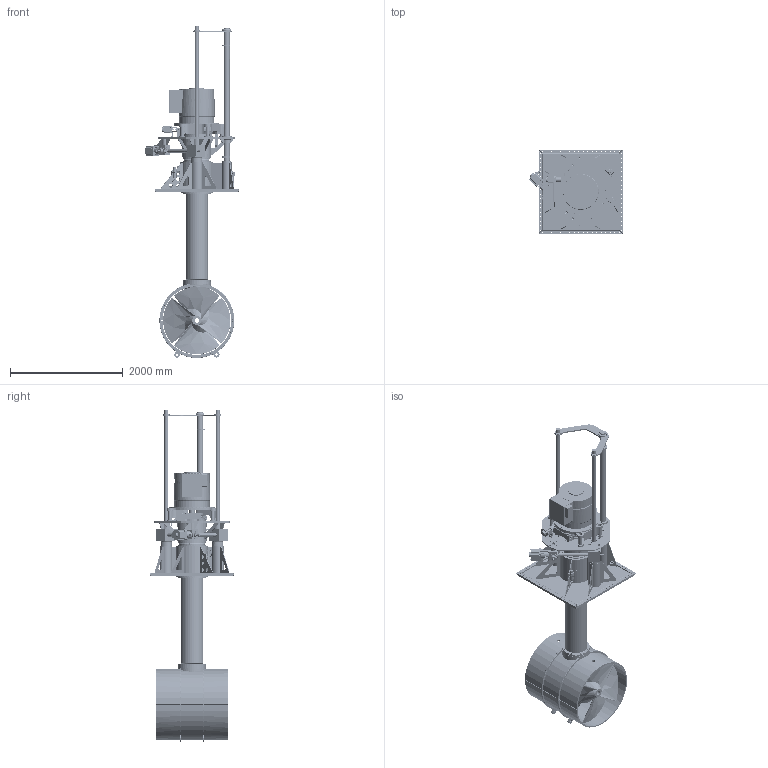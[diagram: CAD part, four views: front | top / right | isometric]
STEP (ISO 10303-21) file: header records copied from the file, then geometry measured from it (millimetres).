
FILE_DESCRIPTION(/* description */ (''),/* implementation_level */ '2;1');
FILE_NAME(/* name */ 'Q:\THRUSTERS\THRUSTER SALES & SUPPORT DOCS\THRUSTER Sales\E-V-R\E-1200-V-R\E-1200-VR-DEPLOYED.stp',/* time_stamp */ '2021-02-03T10:04:52+00:00',/* author */ ('Barney.Webborn'),/* organization */ (''),/* preprocessor_version */ 'ST-DEVELOPER v17.2',/* originating_system */ 'Autodesk Inventor 2019',/* authorisation */ '');
FILE_SCHEMA (('AUTOMOTIVE_DESIGN { 1 0 10303 214 3 1 1 }'));
Products named in the file (1): E-1200-VR_Shrinkwrap_1
Bounding box: 1670.37 x 1500 x 5891.19 mm (x, y, z)
Volume: 820023461.3 mm3; surface area: 50759818.5 mm2
Topology: 11 solids, 11 shells, 5972 faces, 16038 edges, 10257 vertices
Faces by surface type: plane 2527, cylinder 2054, cone 639, torus 382, sphere 199, bspline 171
Full cylindrical faces by diameter (mm): 1.5 x1, 3 x6, 4.4 x4, 4.95 x8, 5.5 x12, 6.9 x1, 7 x26, 7.2 x2, 7.275 x1, 8 x5, 8.5 x16, 9 x5, 9.2 x1, 9.525 x1, 10 x1, 13 x8, 13.157 x1, 14 x5, 15.3 x2, 17 x86, 17.5 x3, 18 x1, 18.376 x2, 18.5 x2, 19 x8, 19.05 x1, 20 x1, 20.5 x8, 21 x3, 23.75 x2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
Entity records: 209852 total; most frequent: CARTESIAN_POINT 52833, DIRECTION 31962, ORIENTED_EDGE 31648, EDGE_CURVE 15824, AXIS2_PLACEMENT_3D 12238, VERTEX_POINT 10257, LINE 7486, VECTOR 7486
